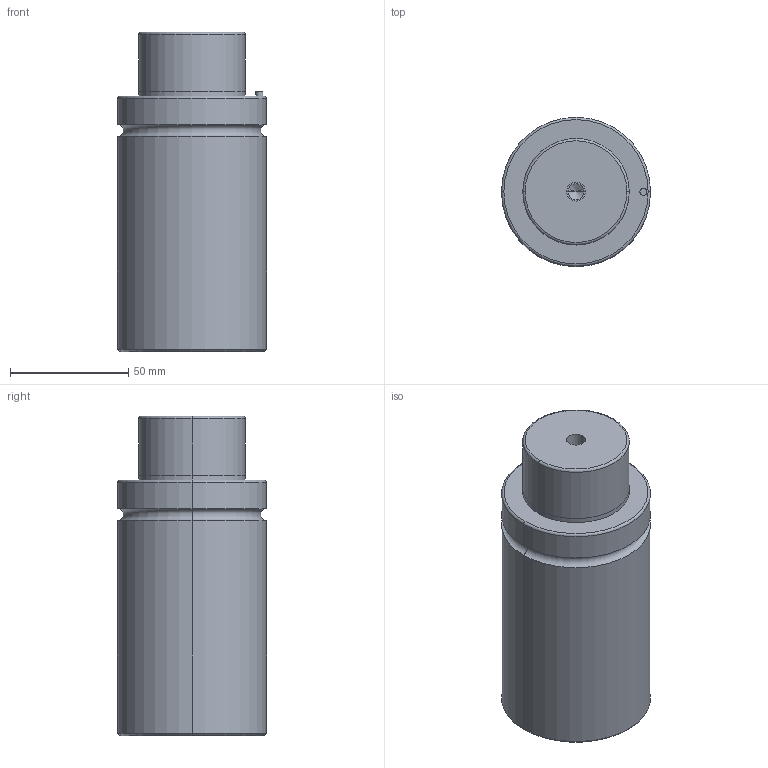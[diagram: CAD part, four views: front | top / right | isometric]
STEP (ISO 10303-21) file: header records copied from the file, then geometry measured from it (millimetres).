
FILE_DESCRIPTION(/* description */ (''),/* implementation_level */ '2;1');
FILE_NAME(/* name */ '3d_gsm63-25_03953_r00.stp',/* time_stamp */ '2011-01-10T14:15:14+09:00',/* author */ ('MISUMI'),/* organization */ (''),/* preprocessor_version */ 'ST-DEVELOPER v11',/* originating_system */ 'UGS - NX 5.0',/* authorisation */ '');
FILE_SCHEMA (('CONFIG_CONTROL_DESIGN'));
Length unit declared in the file: millimetre
Products named in the file (1): 3d_gsm63-25_03953_r00
Bounding box: 63 x 63 x 135 mm (x, y, z)
Volume: 374698.3 mm3; surface area: 33111.4 mm2
Topology: 1 solids, 1 shells, 50 faces, 106 edges, 60 vertices
Faces by surface type: cylinder 26, cone 10, plane 8, torus 6
Entity records: 1382 total; most frequent: DIRECTION 262, CARTESIAN_POINT 209, ORIENTED_EDGE 196, AXIS2_PLACEMENT_3D 113, EDGE_CURVE 98, CIRCLE 62, EDGE_LOOP 60, VERTEX_POINT 60
